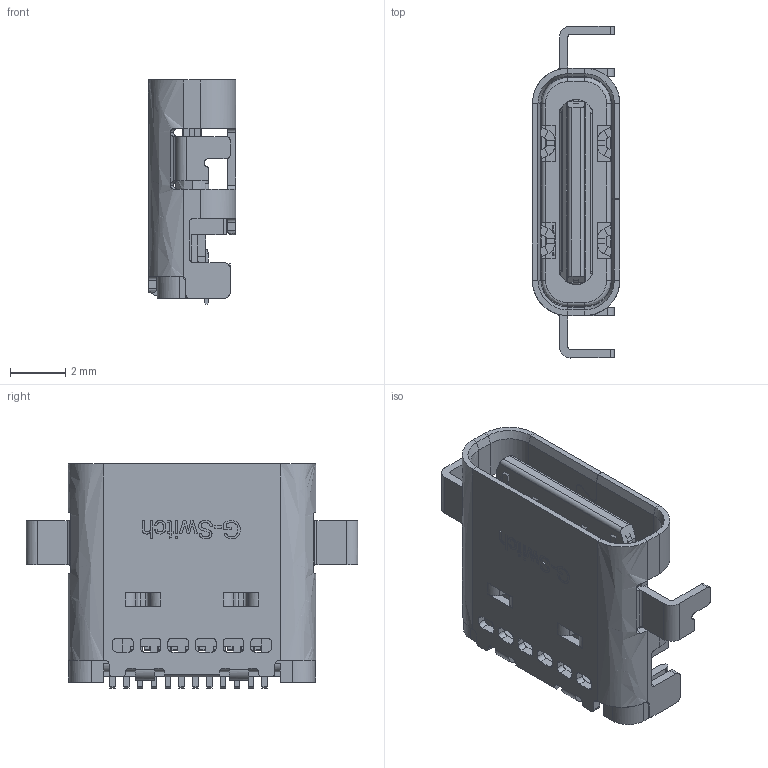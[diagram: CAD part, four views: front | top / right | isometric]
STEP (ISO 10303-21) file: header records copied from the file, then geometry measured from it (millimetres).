
FILE_DESCRIPTION (( 'STEP AP203' ), '1' );
FILE_NAME ('GT-USB-7007B.STEP', '2023-04-12T07:43:26', ( '' ), ( '' ), 'SwSTEP 2.0', 'SolidWorks 2023', '' );
FILE_SCHEMA (( 'CONFIG_CONTROL_DESIGN' ));
Products named in the file (1): GT-USB-7007B
Bounding box: 3.17 x 12 x 8.1 mm (x, y, z)
Surface area: 890.5 mm2 (no closed solid volume)
Topology: 0 solids, 48 shells, 2599 faces, 6883 edges, 4308 vertices
Faces by surface type: bspline 2531, plane 68
Entity records: 80542 total; most frequent: CARTESIAN_POINT 38831, ORIENTED_EDGE 13552, EDGE_CURVE 6883, B_SPLINE_CURVE_WITH_KNOTS 5995, VERTEX_POINT 4316, EDGE_LOOP 2702, FACE_OUTER_BOUND 2599, ADVANCED_FACE 2597
